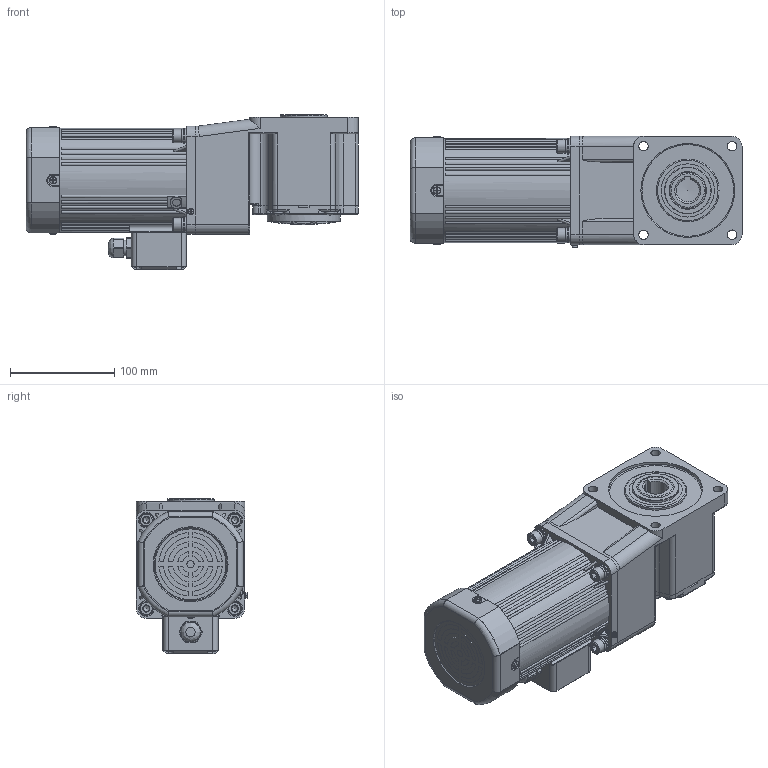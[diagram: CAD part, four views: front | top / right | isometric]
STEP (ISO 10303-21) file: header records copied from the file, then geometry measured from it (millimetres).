
FILE_DESCRIPTION(/* description */ (''),/* implementation_level */ '2;1');
FILE_NAME(/* name */ '100+直角中空-风叶-160-250W 新版常规接线盒.stp',/* time_stamp */ '2025-04-07T19:57:10+08:00',/* author */ (''),/* organization */ (''),/* preprocessor_version */ 'ST-DEVELOPER v18.102',/* originating_system */ 'SIEMENS PLM Software NX 2027',/* authorisation */ '');
FILE_SCHEMA (('AP203_CONFIGURATION_CONTROLLED_3D_DESIGN_OF_MECHANICAL_PARTS_AND_ASSEMBLIES_MIM_LF { 1 0 10303 403 2 1 2}'));
Products named in the file (1): 100+直角中空-风叶-160-250W 新版_
stp_objects
Bounding box: 318.5 x 106.83 x 149.5 mm (x, y, z)
Volume: 3049402.1 mm3; surface area: 433352.4 mm2
Topology: 26 solids, 26 shells, 1943 faces, 5060 edges, 3275 vertices
Faces by surface type: plane 850, cylinder 602, bspline 216, cone 129, torus 120, sphere 26
Full cylindrical faces by diameter (mm): 2.6 x2, 2.7 x1, 3 x17, 3.2 x2, 3.3 x2, 3.5 x6, 3.6 x4, 4 x4, 4.5 x4, 4.55 x2, 5.1 x2, 5.15 x2, 6 x10, 6.8 x12, 7 x2, 7.5 x2, 7.76 x4, 8.4 x4, 9 x14, 9.3 x1, 9.5 x4, 12 x1, 13 x4, 14 x8, 15 x7, 15.5 x2, 16 x1, 18 x1, 19 x3, 21 x1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
Entity records: 60035 total; most frequent: CARTESIAN_POINT 15295, ORIENTED_EDGE 9122, DIRECTION 8745, EDGE_CURVE 4561, AXIS2_PLACEMENT_3D 3433, VERTEX_POINT 3102, EDGE_LOOP 2460, ADVANCED_FACE 1943
